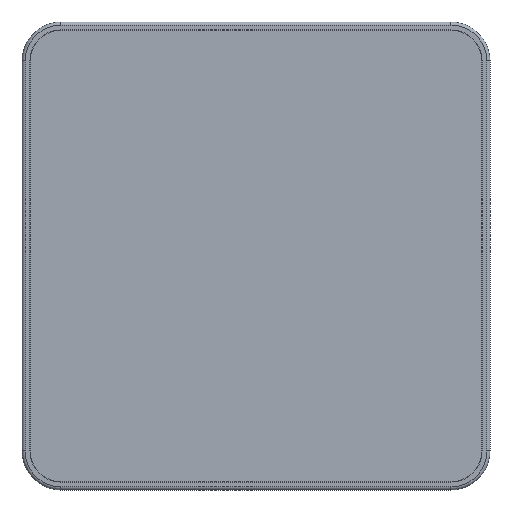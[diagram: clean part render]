
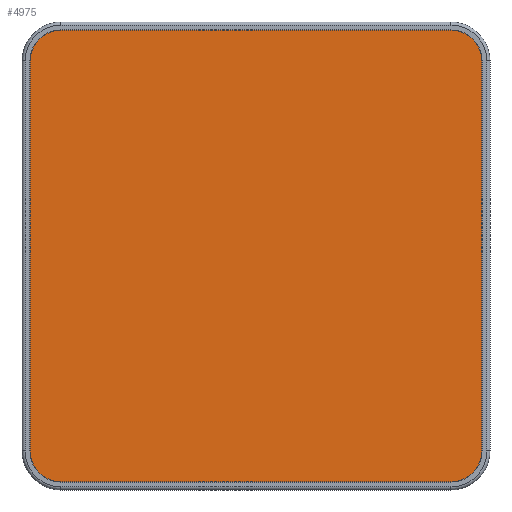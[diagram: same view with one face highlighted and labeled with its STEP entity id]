
A CAD part, front view. The second image highlights one B-rep face of the part: STEP entity #4975.
In plain terms, the highlighted planar face has unit normal (0, -1, 0) as drawn and (0, 0, 1) by its records, which use the part's own axes.
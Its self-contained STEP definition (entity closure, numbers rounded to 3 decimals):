
#4744=CARTESIAN_POINT('',(-250.,-250.,0.));
#4745=DIRECTION('',(0.,0.,1.));
#4746=DIRECTION('',(-1.,0.,0.));
#4747=AXIS2_PLACEMENT_3D('',#4744,#4745,#4746);
#4752=DIRECTION('',(0.,-1.,0.));
#4753=VECTOR('',#4752,500.);
#4754=CARTESIAN_POINT('',(-294.5,250.,0.));
#4755=LINE('',#4754,#4753);
#4759=CARTESIAN_POINT('',(-250.,250.,0.));
#4760=DIRECTION('',(0.,0.,1.));
#4761=DIRECTION('',(0.,1.,0.));
#4762=AXIS2_PLACEMENT_3D('',#4759,#4760,#4761);
#4767=DIRECTION('',(-1.,0.,0.));
#4768=VECTOR('',#4767,500.);
#4769=CARTESIAN_POINT('',(250.,294.5,0.));
#4770=LINE('',#4769,#4768);
#4774=CARTESIAN_POINT('',(250.,250.,0.));
#4775=DIRECTION('',(0.,0.,1.));
#4776=DIRECTION('',(1.,0.,0.));
#4777=AXIS2_PLACEMENT_3D('',#4774,#4775,#4776);
#4782=DIRECTION('',(0.,1.,0.));
#4783=VECTOR('',#4782,500.);
#4784=CARTESIAN_POINT('',(294.5,-250.,0.));
#4785=LINE('',#4784,#4783);
#4789=CARTESIAN_POINT('',(250.,-250.,0.));
#4790=DIRECTION('',(0.,0.,1.));
#4791=DIRECTION('',(0.,-1.,0.));
#4792=AXIS2_PLACEMENT_3D('',#4789,#4790,#4791);
#4797=DIRECTION('',(1.,0.,0.));
#4798=VECTOR('',#4797,500.);
#4799=CARTESIAN_POINT('',(-250.,-294.5,0.));
#4800=LINE('',#4799,#4798);
#4920=CARTESIAN_POINT('',(-294.5,-250.,0.));
#4921=CARTESIAN_POINT('',(-250.,-294.5,0.));
#4922=VERTEX_POINT('',#4920);
#4923=VERTEX_POINT('',#4921);
#4924=CARTESIAN_POINT('',(250.,-294.5,0.));
#4925=VERTEX_POINT('',#4924);
#4926=CARTESIAN_POINT('',(294.5,-250.,0.));
#4927=VERTEX_POINT('',#4926);
#4928=CARTESIAN_POINT('',(294.5,250.,0.));
#4929=VERTEX_POINT('',#4928);
#4930=CARTESIAN_POINT('',(250.,294.5,0.));
#4931=VERTEX_POINT('',#4930);
#4932=CARTESIAN_POINT('',(-250.,294.5,0.));
#4933=VERTEX_POINT('',#4932);
#4934=CARTESIAN_POINT('',(-294.5,250.,0.));
#4935=VERTEX_POINT('',#4934);
#4952=CARTESIAN_POINT('',(0.,0.,0.));
#4953=DIRECTION('',(0.,0.,1.));
#4954=DIRECTION('',(0.,1.,0.));
#4955=AXIS2_PLACEMENT_3D('',#4952,#4953,#4954);
#4956=PLANE('',#4955);
#4958=ORIENTED_EDGE('',*,*,#4957,.F.);
#4960=ORIENTED_EDGE('',*,*,#4959,.F.);
#4962=ORIENTED_EDGE('',*,*,#4961,.F.);
#4964=ORIENTED_EDGE('',*,*,#4963,.F.);
#4966=ORIENTED_EDGE('',*,*,#4965,.F.);
#4968=ORIENTED_EDGE('',*,*,#4967,.F.);
#4970=ORIENTED_EDGE('',*,*,#4969,.F.);
#4972=ORIENTED_EDGE('',*,*,#4971,.F.);
#4973=EDGE_LOOP('',(#4958,#4960,#4962,#4964,#4966,#4968,#4970,#4972));
#4974=FACE_OUTER_BOUND('',#4973,.F.);
#4975=ADVANCED_FACE('',(#4974),#4956,.T.);
#4748=CIRCLE('',#4747,44.5);
#4763=CIRCLE('',#4762,44.5);
#4778=CIRCLE('',#4777,44.5);
#4793=CIRCLE('',#4792,44.5);
#4957=EDGE_CURVE('',#4922,#4923,#4748,.T.);
#4959=EDGE_CURVE('',#4935,#4922,#4755,.T.);
#4961=EDGE_CURVE('',#4933,#4935,#4763,.T.);
#4963=EDGE_CURVE('',#4931,#4933,#4770,.T.);
#4965=EDGE_CURVE('',#4929,#4931,#4778,.T.);
#4967=EDGE_CURVE('',#4927,#4929,#4785,.T.);
#4969=EDGE_CURVE('',#4925,#4927,#4793,.T.);
#4971=EDGE_CURVE('',#4923,#4925,#4800,.T.);
